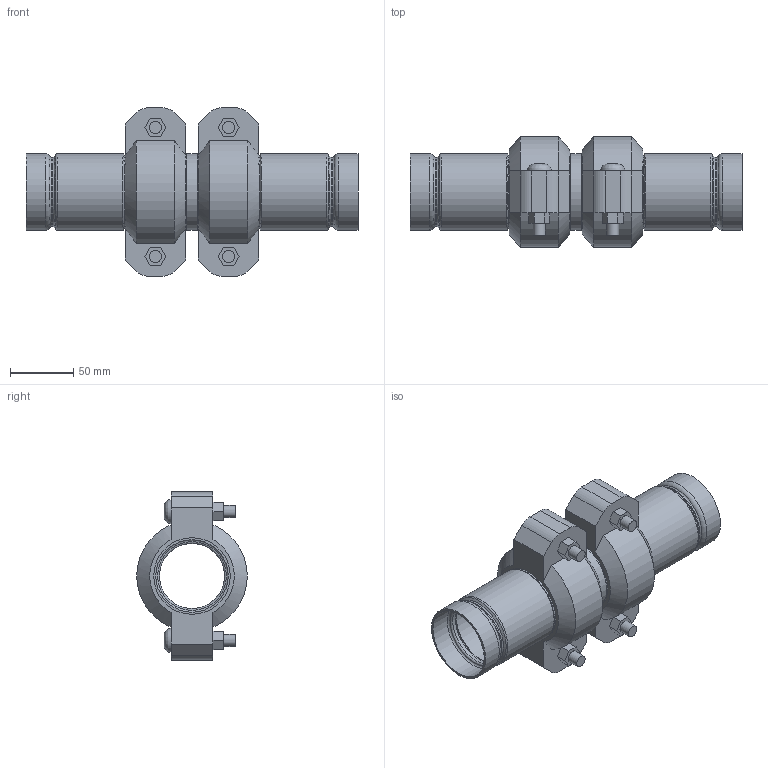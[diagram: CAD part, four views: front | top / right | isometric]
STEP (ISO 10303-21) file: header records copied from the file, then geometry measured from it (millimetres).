
FILE_DESCRIPTION(/* description */ ('VIC STRENGTHIN 100 EXPANSION JOINT 2 COUPLINGS COMPRESSED STYLE E155 (ST1)','CAx-IF Rec.Pracs.---Representation and Presentation of Product Manufacturing Information (PMI)---4.0---2014-10-13'),/* implementation_level */ '2;1');
FILE_NAME(/* name */ 'C:\Users\Vjadhav\AppData\Roaming\Autodesk\ApplicationPlugins\Victaulic.Temp\A523\Victaulic_SS-StrengThin 100_Expansion Joint_Compressed_2 Couplings_Style E155 (ST1)_2 (50).stp',/* time_stamp */ '2021-07-23T12:28:58+06:00',/* author */ ('kkamble'),/* organization */ ('Victaulic'),/* preprocessor_version */ 'ST-DEVELOPER v17.2',/* originating_system */ 'Autodesk Inventor 2019',/* authorisation */ '');
FILE_SCHEMA (('AP242_MANAGED_MODEL_BASED_3D_ENGINEERING_MIM_LF { 1 0 10303 442 1 1 4 }'));
Length unit declared in the file: inch
Products named in the file (4): E155-02.0; E494G-02.0; Nipple-02.0; 075-02.0
Assembly tree (5 placements, depth 2):
  E155-02.0
    E494G-02.0  x2
    Nipple-02.0
    075-02.0  x2
Bounding box: 261.62 x 87.12 x 132.59 mm (x, y, z)
Volume: 497149 mm3; surface area: 178655.2 mm2
Topology: 5 solids, 9 shells, 186 faces, 506 edges, 362 vertices
Faces by surface type: plane 86, cylinder 52, torus 32, cone 12, bspline 4
Full cylindrical faces by diameter (mm): 9.525 x8, 11.43 x4, 51.13 x2, 52.502 x1, 53.95 x2, 54.331 x2, 57.125 x6, 57.15 x4, 60.325 x11
Entity records: 3599 total; most frequent: CARTESIAN_POINT 637, DIRECTION 635, ORIENTED_EDGE 536, AXIS2_PLACEMENT_3D 269, EDGE_CURVE 268, VERTEX_POINT 193, CIRCLE 163, EDGE_LOOP 123
